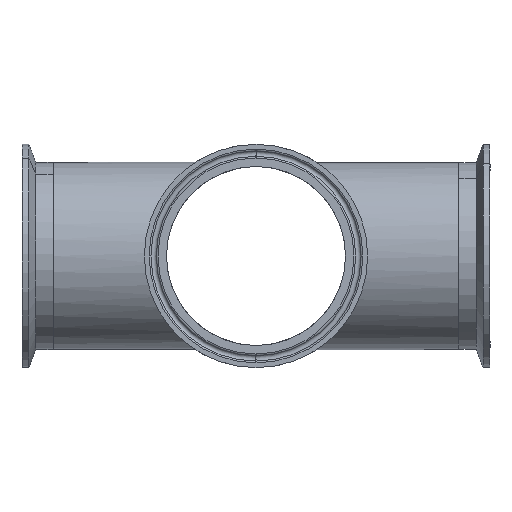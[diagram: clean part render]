
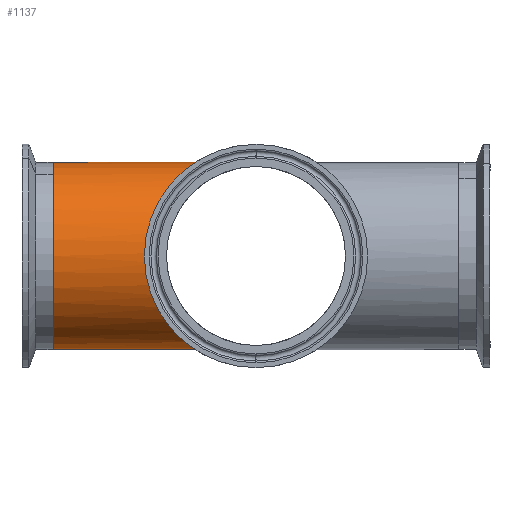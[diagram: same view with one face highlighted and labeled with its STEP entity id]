
A CAD part, front view. The second image highlights one B-rep face of the part: STEP entity #1137.
In plain terms, the highlighted cylindrical face has radius 38.1 mm (diameter 76.2 mm), a partial arc.
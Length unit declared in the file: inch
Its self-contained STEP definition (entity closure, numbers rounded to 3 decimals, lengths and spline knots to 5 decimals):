
#21 = ORIENTED_EDGE ( 'NONE', *, *, #1053, .F. ) ;
#46 = ORIENTED_EDGE ( 'NONE', *, *, #356, .T. ) ;
#56 = CIRCLE ( 'NONE', #318, 1.5 ) ;
#94 = CARTESIAN_POINT ( 'NONE',  ( 3.25, 0., 1.5 ) ) ;
#115 = CARTESIAN_POINT ( 'NONE',  ( -3., -3., 1.5 ) ) ;
#249 = EDGE_CURVE ( 'NONE', #747, #487, #56, .T. ) ;
#266 = VERTEX_POINT ( 'NONE', #513 ) ;
#275 = CARTESIAN_POINT ( 'NONE',  ( 3.25, 0., 0. ) ) ;
#283 = EDGE_CURVE ( 'NONE', #1109, #747, #1255, .T. ) ;
#318 = AXIS2_PLACEMENT_3D ( 'NONE', #1262, #830, #396 ) ;
#322 = CARTESIAN_POINT ( 'NONE',  ( 0., 0., -1.5 ) ) ;
#356 = EDGE_CURVE ( 'NONE', #266, #1109, #507, .T. ) ;
#368 = CARTESIAN_POINT ( 'NONE',  ( 0., 0., 1.5 ) ) ;
#374 = FACE_OUTER_BOUND ( 'NONE', #541, .T. ) ;
#396 = DIRECTION ( 'NONE',  ( 0., 0., -1. ) ) ;
#474 = LINE ( 'NONE', #1333, #481 ) ;
#481 = VECTOR ( 'NONE', #1001, 39.37008 ) ;
#487 = VERTEX_POINT ( 'NONE', #907 ) ;
#507 =( BOUNDED_CURVE ( )  B_SPLINE_CURVE ( 3, ( #322, #791, #115, #779 ),
 .UNSPECIFIED., .F., .T. ) 
 B_SPLINE_CURVE_WITH_KNOTS ( ( 4, 4 ),
 ( 4.71239, 7.85398 ),
 .UNSPECIFIED. ) 
 CURVE ( )  GEOMETRIC_REPRESENTATION_ITEM ( )  RATIONAL_B_SPLINE_CURVE ( ( 1., 0.333, 0.333, 1. ) ) 
 REPRESENTATION_ITEM ( '' )  );
#511 = CARTESIAN_POINT ( 'NONE',  ( -3.25, 0., 1.5 ) ) ;
#513 = CARTESIAN_POINT ( 'NONE',  ( 0., 0., -1.5 ) ) ;
#528 = DIRECTION ( 'NONE',  ( -1., 0., 0. ) ) ;
#541 = EDGE_LOOP ( 'NONE', ( #21, #46, #1279, #908 ) ) ;
#700 = CYLINDRICAL_SURFACE ( 'NONE', #820, 1.5 ) ;
#714 = DIRECTION ( 'NONE',  ( 0., 0., 1. ) ) ;
#747 = VERTEX_POINT ( 'NONE', #511 ) ;
#779 = CARTESIAN_POINT ( 'NONE',  ( 0., 0., 1.5 ) ) ;
#791 = CARTESIAN_POINT ( 'NONE',  ( -3., -3., -1.5 ) ) ;
#820 = AXIS2_PLACEMENT_3D ( 'NONE', #275, #1325, #714 ) ;
#830 = DIRECTION ( 'NONE',  ( 1., 0., 0. ) ) ;
#907 = CARTESIAN_POINT ( 'NONE',  ( -3.25, 0., -1.5 ) ) ;
#908 = ORIENTED_EDGE ( 'NONE', *, *, #249, .T. ) ;
#1001 = DIRECTION ( 'NONE',  ( -1., 0., 0. ) ) ;
#1053 = EDGE_CURVE ( 'NONE', #266, #487, #474, .T. ) ;
#1109 = VERTEX_POINT ( 'NONE', #368 ) ;
#1112 = VECTOR ( 'NONE', #528, 39.37008 ) ;
#1137 = ADVANCED_FACE ( 'NONE', ( #374 ), #700, .T. ) ;
#1255 = LINE ( 'NONE', #94, #1112 ) ;
#1262 = CARTESIAN_POINT ( 'NONE',  ( -3.25, 0., 0. ) ) ;
#1279 = ORIENTED_EDGE ( 'NONE', *, *, #283, .T. ) ;
#1325 = DIRECTION ( 'NONE',  ( -1., 0., 0. ) ) ;
#1333 = CARTESIAN_POINT ( 'NONE',  ( 3.25, 0., -1.5 ) ) ;
